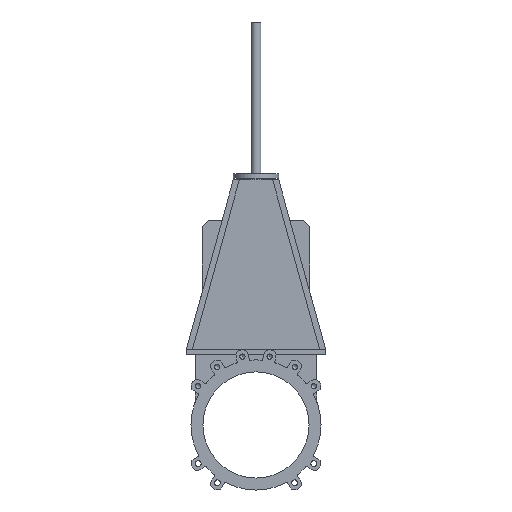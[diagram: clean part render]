
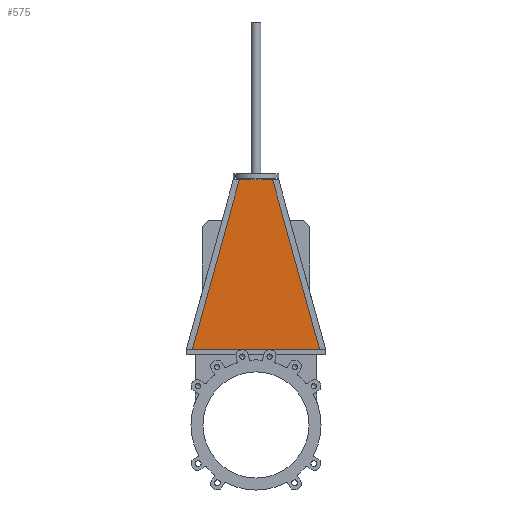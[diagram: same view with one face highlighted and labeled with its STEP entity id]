
A CAD part, front view. The second image highlights one B-rep face of the part: STEP entity #575.
In plain terms, the highlighted planar face has unit normal (0, -1, 0).
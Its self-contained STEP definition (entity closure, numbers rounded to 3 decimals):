
#575=ADVANCED_FACE('',(#2938),#2940,.F.);
#2938=FACE_BOUND('',#2939,.T.);
#2939=EDGE_LOOP('',(#4919,#4920,#4921,#4922,#4923,#4924));
#2940=PLANE('',#2941);
#2941=AXIS2_PLACEMENT_3D('',#2942,#2943,#2944);
#2942=CARTESIAN_POINT('',(210.,-36.,249.5));
#2943=DIRECTION('',(0.,1.,0.));
#2944=DIRECTION('',(-1.,0.,0.));
#4919=ORIENTED_EDGE('',*,*,#6144,.F.);
#4920=ORIENTED_EDGE('',*,*,#6143,.T.);
#4921=ORIENTED_EDGE('',*,*,#6225,.F.);
#4922=ORIENTED_EDGE('',*,*,#6227,.F.);
#4923=ORIENTED_EDGE('',*,*,#6228,.T.);
#4924=ORIENTED_EDGE('',*,*,#6150,.T.);
#6143=EDGE_CURVE('',#6884,#6950,#6952,.T.);
#6144=EDGE_CURVE('',#6884,#6888,#6953,.F.);
#6150=EDGE_CURVE('',#6964,#6888,#6965,.T.);
#6225=EDGE_CURVE('',#7093,#6950,#7094,.T.);
#6227=EDGE_CURVE('',#7096,#7093,#7097,.T.);
#6228=EDGE_CURVE('',#7096,#6964,#7098,.T.);
#6884=VERTEX_POINT('',#8278);
#6888=VERTEX_POINT('',#8288);
#6950=VERTEX_POINT('',#8432);
#6952=LINE('',#8436,#8437);
#6953=LINE('',#8439,#8440);
#6964=VERTEX_POINT('',#8467);
#6965=LINE('',#8468,#8469);
#7093=VERTEX_POINT('',#8751);
#7094=LINE('',#8752,#8753);
#7096=VERTEX_POINT('',#8758);
#7097=LINE('',#8759,#8760);
#7098=LINE('',#8762,#8763);
#8278=CARTESIAN_POINT('',(-17.436,-36.,808.));
#8288=CARTESIAN_POINT('',(17.436,-36.,808.));
#8432=CARTESIAN_POINT('',(-55.,-36.,808.));
#8436=CARTESIAN_POINT('',(-17.436,-36.,808.));
#8437=VECTOR('',#8438,1.);
#8438=DIRECTION('',(-1.,0.,0.));
#8439=CARTESIAN_POINT('',(17.436,-36.,808.));
#8440=VECTOR('',#8441,1.);
#8441=DIRECTION('',(-1.,0.,0.));
#8467=CARTESIAN_POINT('',(55.,-36.,808.));
#8468=CARTESIAN_POINT('',(55.,-36.,808.));
#8469=VECTOR('',#8470,1.);
#8470=DIRECTION('',(-1.,0.,0.));
#8751=CARTESIAN_POINT('',(-210.,-36.,249.5));
#8752=CARTESIAN_POINT('',(-210.,-36.,249.5));
#8753=VECTOR('',#8754,1.);
#8754=DIRECTION('',(0.267,0.,0.964));
#8758=CARTESIAN_POINT('',(210.,-36.,249.5));
#8759=CARTESIAN_POINT('',(210.,-36.,249.5));
#8760=VECTOR('',#8761,1.);
#8761=DIRECTION('',(-1.,0.,0.));
#8762=CARTESIAN_POINT('',(210.,-36.,249.5));
#8763=VECTOR('',#8764,1.);
#8764=DIRECTION('',(-0.267,0.,0.964));
